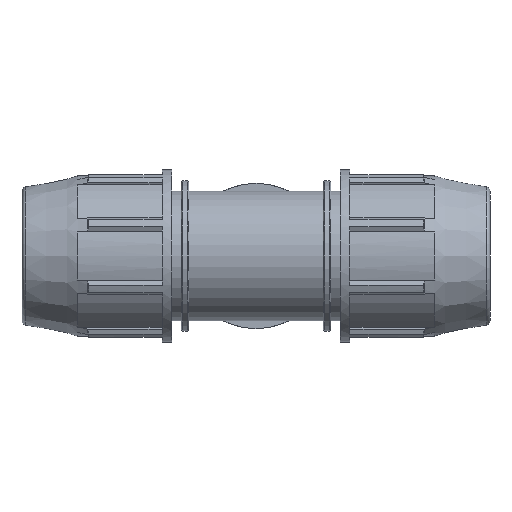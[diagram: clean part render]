
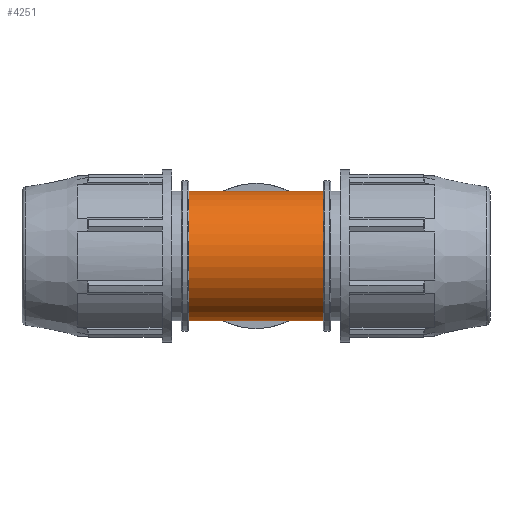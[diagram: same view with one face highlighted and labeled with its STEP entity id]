
A CAD part, front view. The second image highlights one B-rep face of the part: STEP entity #4251.
In plain terms, the highlighted cylindrical face has radius 23.622 mm (diameter 47.244 mm), a full revolution.
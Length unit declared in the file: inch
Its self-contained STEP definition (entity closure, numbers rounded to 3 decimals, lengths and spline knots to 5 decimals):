
#235=FACE_BOUND('',#469,.T.);
#253=FACE_OUTER_BOUND('',#468,.T.);
#468=EDGE_LOOP('',(#2723,#2724,#2725,#2726,#2727,#2728));
#469=EDGE_LOOP('',(#2729,#2730));
#700=B_SPLINE_CURVE_WITH_KNOTS('',3,(#6201,#6202,#6203,#6204,#6205,#6206,
#6207,#6208,#6209,#6210,#6211,#6212,#6213,#6214,#6215,#6216,#6217,#6218),
 .UNSPECIFIED.,.F.,.F.,(4,2,2,2,2,2,2,2,4),(0.,0.41667,0.83333,
1.25,1.66666,2.06504,2.46341,2.86179,
3.26016),.UNSPECIFIED.);
#701=B_SPLINE_CURVE_WITH_KNOTS('',3,(#6219,#6220,#6221,#6222,#6223,#6224,
#6225,#6226,#6227,#6228,#6229,#6230,#6231,#6232,#6233,#6234,#6235,#6236,
#6237,#6238,#6239,#6240,#6241,#6242,#6243,#6244,#6245,#6246,#6247,#6248,
#6249,#6250,#6251,#6252,#6253,#6254,#6255,#6256,#6257,#6258,#6259,#6260,
#6261,#6262,#6263,#6264,#6265,#6266,#6267,#6268),.UNSPECIFIED.,.F.,.F.,
(4,2,2,2,2,2,2,2,2,2,2,2,2,2,2,2,2,2,2,2,2,2,2,2,4),(3.26016,3.65854,
4.05692,4.45529,4.85367,5.27033,5.687,
6.10366,6.52033,6.937,7.35366,7.77033,
8.18699,8.58537,8.98374,9.38212,9.78049,
10.17887,10.57725,10.97562,11.374,11.79066,
12.20733,12.62399,13.04066),.UNSPECIFIED.);
#711=LINE('',#6195,#1062);
#1062=VECTOR('',#4947,0.93);
#1416=CIRCLE('',#4491,0.93);
#1417=CIRCLE('',#4492,0.93);
#1418=CIRCLE('',#4493,0.93);
#1419=CIRCLE('',#4494,0.93);
#1645=VERTEX_POINT('',#6190);
#1646=VERTEX_POINT('',#6191);
#1647=VERTEX_POINT('',#6194);
#1648=VERTEX_POINT('',#6196);
#1649=VERTEX_POINT('',#6199);
#1650=VERTEX_POINT('',#6200);
#2084=EDGE_CURVE('',#1645,#1646,#1416,.T.);
#2085=EDGE_CURVE('',#1646,#1645,#1417,.T.);
#2086=EDGE_CURVE('',#1646,#1647,#711,.T.);
#2087=EDGE_CURVE('',#1647,#1648,#1418,.T.);
#2088=EDGE_CURVE('',#1648,#1647,#1419,.T.);
#2089=EDGE_CURVE('',#1649,#1650,#700,.T.);
#2090=EDGE_CURVE('',#1650,#1649,#701,.T.);
#2723=ORIENTED_EDGE('',*,*,#2084,.F.);
#2724=ORIENTED_EDGE('',*,*,#2085,.F.);
#2725=ORIENTED_EDGE('',*,*,#2086,.T.);
#2726=ORIENTED_EDGE('',*,*,#2087,.T.);
#2727=ORIENTED_EDGE('',*,*,#2088,.T.);
#2728=ORIENTED_EDGE('',*,*,#2086,.F.);
#2729=ORIENTED_EDGE('',*,*,#2089,.F.);
#2730=ORIENTED_EDGE('',*,*,#2090,.F.);
#3993=CYLINDRICAL_SURFACE('',#4490,0.93);
#4251=ADVANCED_FACE('',(#253,#235),#3993,.T.);
#4490=AXIS2_PLACEMENT_3D('',#6189,#4941,#4942);
#4491=AXIS2_PLACEMENT_3D('',#6192,#4943,#4944);
#4492=AXIS2_PLACEMENT_3D('',#6193,#4945,#4946);
#4493=AXIS2_PLACEMENT_3D('',#6197,#4948,#4949);
#4494=AXIS2_PLACEMENT_3D('',#6198,#4950,#4951);
#4941=DIRECTION('center_axis',(1.,0.,0.));
#4942=DIRECTION('ref_axis',(0.,1.,0.));
#4943=DIRECTION('center_axis',(1.,0.,0.));
#4944=DIRECTION('ref_axis',(0.,0.,-1.));
#4945=DIRECTION('center_axis',(1.,0.,0.));
#4946=DIRECTION('ref_axis',(0.,0.,-1.));
#4947=DIRECTION('',(-1.,0.,0.));
#4948=DIRECTION('center_axis',(1.,0.,0.));
#4949=DIRECTION('ref_axis',(0.,0.,-1.));
#4950=DIRECTION('center_axis',(1.,0.,0.));
#4951=DIRECTION('ref_axis',(0.,0.,-1.));
#6189=CARTESIAN_POINT('Origin',(0.68422,0.,0.));
#6190=CARTESIAN_POINT('',(0.96463,0.93,0.));
#6191=CARTESIAN_POINT('',(0.96463,-0.93,0.));
#6192=CARTESIAN_POINT('Origin',(0.96463,0.,0.));
#6193=CARTESIAN_POINT('Origin',(0.96463,0.,0.));
#6194=CARTESIAN_POINT('',(-0.96463,-0.93,0.));
#6195=CARTESIAN_POINT('',(0.68422,-0.93,0.));
#6196=CARTESIAN_POINT('',(-0.96463,0.93,0.));
#6197=CARTESIAN_POINT('Origin',(-0.96463,0.,0.));
#6198=CARTESIAN_POINT('Origin',(-0.96463,0.,0.));
#6199=CARTESIAN_POINT('',(0.,0.50064,0.78375));
#6200=CARTESIAN_POINT('',(0.78375,0.93,0.));
#6201=CARTESIAN_POINT('Ctrl Pts',(0.,0.50064,0.78375));
#6202=CARTESIAN_POINT('Ctrl Pts',(0.05468,0.50064,
0.78375));
#6203=CARTESIAN_POINT('Ctrl Pts',(0.10802,0.50981,0.77804));
#6204=CARTESIAN_POINT('Ctrl Pts',(0.21073,0.54097,0.75671));
#6205=CARTESIAN_POINT('Ctrl Pts',(0.26015,0.56277,0.74108));
#6206=CARTESIAN_POINT('Ctrl Pts',(0.35417,0.61194,0.70103));
#6207=CARTESIAN_POINT('Ctrl Pts',(0.39878,0.63929,0.67657));
#6208=CARTESIAN_POINT('Ctrl Pts',(0.48168,0.69404,0.62029));
#6209=CARTESIAN_POINT('Ctrl Pts',(0.51996,0.72143,0.58843));
#6210=CARTESIAN_POINT('Ctrl Pts',(0.58693,0.77113,0.52146));
#6211=CARTESIAN_POINT('Ctrl Pts',(0.61837,0.79544,0.48413));
#6212=CARTESIAN_POINT('Ctrl Pts',(0.67491,0.84014,0.40158));
#6213=CARTESIAN_POINT('Ctrl Pts',(0.7,0.86052,0.35635));
#6214=CARTESIAN_POINT('Ctrl Pts',(0.74108,0.89426,0.26036));
#6215=CARTESIAN_POINT('Ctrl Pts',(0.7571,0.90763,0.2095));
#6216=CARTESIAN_POINT('Ctrl Pts',(0.77844,0.92551,0.10546));
#6217=CARTESIAN_POINT('Ctrl Pts',(0.78375,0.93,0.05228));
#6218=CARTESIAN_POINT('Ctrl Pts',(0.78375,0.93,0.));
#6219=CARTESIAN_POINT('Ctrl Pts',(0.78375,0.93,0.));
#6220=CARTESIAN_POINT('Ctrl Pts',(0.78375,0.93,-0.05228));
#6221=CARTESIAN_POINT('Ctrl Pts',(0.77844,0.92551,-0.10546));
#6222=CARTESIAN_POINT('Ctrl Pts',(0.7571,0.90763,-0.2095));
#6223=CARTESIAN_POINT('Ctrl Pts',(0.74108,0.89426,-0.26036));
#6224=CARTESIAN_POINT('Ctrl Pts',(0.7,0.86052,-0.35635));
#6225=CARTESIAN_POINT('Ctrl Pts',(0.67491,0.84014,-0.40158));
#6226=CARTESIAN_POINT('Ctrl Pts',(0.61837,0.79544,-0.48413));
#6227=CARTESIAN_POINT('Ctrl Pts',(0.58693,0.77113,-0.52146));
#6228=CARTESIAN_POINT('Ctrl Pts',(0.51996,0.72143,-0.58843));
#6229=CARTESIAN_POINT('Ctrl Pts',(0.48168,0.69404,-0.62029));
#6230=CARTESIAN_POINT('Ctrl Pts',(0.39878,0.63929,-0.67657));
#6231=CARTESIAN_POINT('Ctrl Pts',(0.35417,0.61194,-0.70103));
#6232=CARTESIAN_POINT('Ctrl Pts',(0.26015,0.56277,-0.74108));
#6233=CARTESIAN_POINT('Ctrl Pts',(0.21073,0.54097,-0.75671));
#6234=CARTESIAN_POINT('Ctrl Pts',(0.10802,0.50981,-0.77804));
#6235=CARTESIAN_POINT('Ctrl Pts',(0.05468,0.50064,
-0.78375));
#6236=CARTESIAN_POINT('Ctrl Pts',(-0.05468,0.50064,
-0.78375));
#6237=CARTESIAN_POINT('Ctrl Pts',(-0.10802,0.50981,
-0.77804));
#6238=CARTESIAN_POINT('Ctrl Pts',(-0.21073,0.54097,
-0.75671));
#6239=CARTESIAN_POINT('Ctrl Pts',(-0.26015,0.56277,
-0.74108));
#6240=CARTESIAN_POINT('Ctrl Pts',(-0.35417,0.61194,
-0.70103));
#6241=CARTESIAN_POINT('Ctrl Pts',(-0.39878,0.63929,-0.67657));
#6242=CARTESIAN_POINT('Ctrl Pts',(-0.48168,0.69404,-0.62029));
#6243=CARTESIAN_POINT('Ctrl Pts',(-0.51996,0.72143,
-0.58843));
#6244=CARTESIAN_POINT('Ctrl Pts',(-0.58693,0.77113,
-0.52146));
#6245=CARTESIAN_POINT('Ctrl Pts',(-0.61837,0.79544,
-0.48413));
#6246=CARTESIAN_POINT('Ctrl Pts',(-0.67491,0.84014,
-0.40158));
#6247=CARTESIAN_POINT('Ctrl Pts',(-0.7,0.86052,
-0.35635));
#6248=CARTESIAN_POINT('Ctrl Pts',(-0.74108,0.89426,
-0.26036));
#6249=CARTESIAN_POINT('Ctrl Pts',(-0.7571,0.90763,
-0.2095));
#6250=CARTESIAN_POINT('Ctrl Pts',(-0.77844,0.92551,
-0.10546));
#6251=CARTESIAN_POINT('Ctrl Pts',(-0.78375,0.93,-0.05228));
#6252=CARTESIAN_POINT('Ctrl Pts',(-0.78375,0.93,0.05228));
#6253=CARTESIAN_POINT('Ctrl Pts',(-0.77844,0.92551,
0.10546));
#6254=CARTESIAN_POINT('Ctrl Pts',(-0.7571,0.90763,
0.2095));
#6255=CARTESIAN_POINT('Ctrl Pts',(-0.74108,0.89426,
0.26036));
#6256=CARTESIAN_POINT('Ctrl Pts',(-0.7,0.86052,
0.35635));
#6257=CARTESIAN_POINT('Ctrl Pts',(-0.67491,0.84014,0.40158));
#6258=CARTESIAN_POINT('Ctrl Pts',(-0.61837,0.79544,0.48413));
#6259=CARTESIAN_POINT('Ctrl Pts',(-0.58693,0.77113,
0.52146));
#6260=CARTESIAN_POINT('Ctrl Pts',(-0.51996,0.72143,
0.58843));
#6261=CARTESIAN_POINT('Ctrl Pts',(-0.48168,0.69404,0.62029));
#6262=CARTESIAN_POINT('Ctrl Pts',(-0.39878,0.63929,0.67657));
#6263=CARTESIAN_POINT('Ctrl Pts',(-0.35417,0.61194,
0.70103));
#6264=CARTESIAN_POINT('Ctrl Pts',(-0.26015,0.56277,
0.74108));
#6265=CARTESIAN_POINT('Ctrl Pts',(-0.21073,0.54097,
0.75671));
#6266=CARTESIAN_POINT('Ctrl Pts',(-0.10802,0.50981,
0.77804));
#6267=CARTESIAN_POINT('Ctrl Pts',(-0.05468,0.50064,
0.78375));
#6268=CARTESIAN_POINT('Ctrl Pts',(0.,0.50064,
0.78375));
